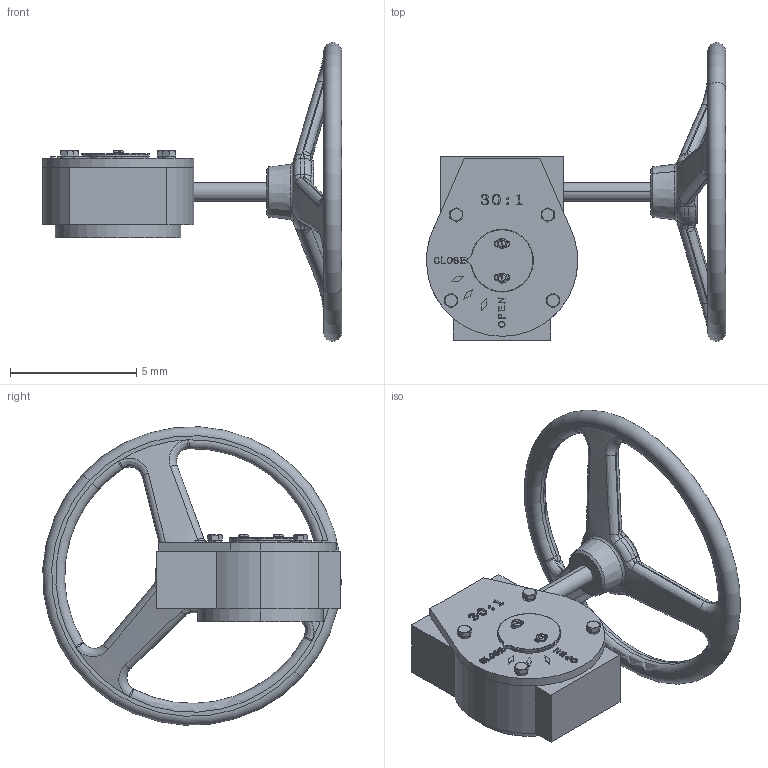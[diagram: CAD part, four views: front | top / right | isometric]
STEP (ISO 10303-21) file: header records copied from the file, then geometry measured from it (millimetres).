
FILE_DESCRIPTION(('Open CASCADE Model'),'2;1');
FILE_NAME('Open CASCADE Shape Model','2022-09-14T09:24:40',('Author'),( 'Open CASCADE'),'Open CASCADE STEP processor 7.3','Open CASCADE 7.3' ,'Unknown');
FILE_SCHEMA(('AUTOMOTIVE_DESIGN { 1 0 10303 214 1 1 1 1 }'));
Length unit declared in the file: millimetre
Products named in the file (16): Open CASCADE STEP translator 7.3 1; Open CASCADE STEP translator 7.3 1.1; Open CASCADE STEP translator 7.3 1.2; Open CASCADE STEP translator 7.3 1.3; Open CASCADE STEP translator 7.3 1.4; Open CASCADE STEP translator 7.3 1.5; Open CASCADE STEP translator 7.3 1.6; Open CASCADE STEP translator 7.3 1.7; Open CASCADE STEP translator 7.3 1.8; Open CASCADE STEP translator 7.3 1.9; Open CASCADE STEP translator 7.3 1.10; Open CASCADE STEP translator 7.3 1.11; Open CASCADE STEP translator 7.3 1.12; Open CASCADE STEP translator 7.3 1.13; Open CASCADE STEP translator 7.3 1.14; Open CASCADE STEP translator 7.3 1.15
Assembly tree (15 placements, depth 2):
  Open CASCADE STEP translator 7.3 1
    Open CASCADE STEP translator 7.3 1.1
    Open CASCADE STEP translator 7.3 1.2
    Open CASCADE STEP translator 7.3 1.3
    Open CASCADE STEP translator 7.3 1.4
    Open CASCADE STEP translator 7.3 1.5
    Open CASCADE STEP translator 7.3 1.6
    Open CASCADE STEP translator 7.3 1.7
    Open CASCADE STEP translator 7.3 1.8
    Open CASCADE STEP translator 7.3 1.9
    Open CASCADE STEP translator 7.3 1.10
    Open CASCADE STEP translator 7.3 1.11
    Open CASCADE STEP translator 7.3 1.12
    Open CASCADE STEP translator 7.3 1.13
    Open CASCADE STEP translator 7.3 1.14
    Open CASCADE STEP translator 7.3 1.15
Bounding box: 11.84 x 11.8 x 11.8 mm (x, y, z)
Volume: 144.7 mm3; surface area: 434.3 mm2
Topology: 15 solids, 15 shells, 655 faces, 1668 edges, 1060 vertices
Faces by surface type: plane 245, bspline 177, cylinder 134, torus 50, cone 49
Entity records: 69845 total; most frequent: CARTESIAN_POINT 39697, DIRECTION 4526, ORIENTED_EDGE 3296, PCURVE 3296, DEFINITIONAL_REPRESENTATION 3296, LINE 2552, VECTOR 2552, B_SPLINE_CURVE_WITH_KNOTS 1714
